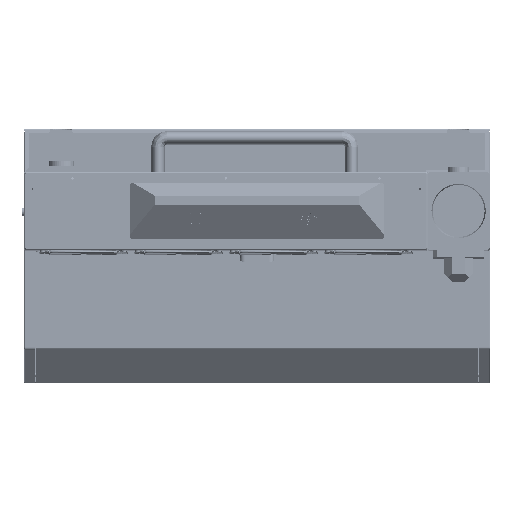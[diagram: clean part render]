
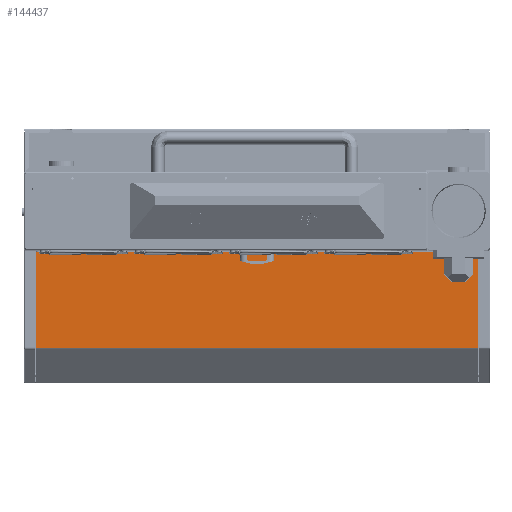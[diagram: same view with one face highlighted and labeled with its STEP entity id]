
A CAD part, top view. The second image highlights one B-rep face of the part: STEP entity #144437.
In plain terms, the highlighted planar face has unit normal (0, 0, 1) as drawn and (0, 1, 0) by its records, which use the part's own axes.
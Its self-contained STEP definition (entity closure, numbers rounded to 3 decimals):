
#36287 = VERTEX_POINT ( 'NONE', #92441 ) ;
#36305 = VERTEX_POINT ( 'NONE', #92437 ) ;
#36317 = VERTEX_POINT ( 'NONE', #92374 ) ;
#36339 = VERTEX_POINT ( 'NONE', #92486 ) ;
#91928 = VECTOR ( 'NONE', #97245, 1000. ) ;
#91996 = VECTOR ( 'NONE', #97355, 1000. ) ;
#92374 = CARTESIAN_POINT ( 'NONE',  ( 44.611, 210.164, 570. ) ) ;
#92437 = CARTESIAN_POINT ( 'NONE',  ( 44.611, 210.164, 1. ) ) ;
#92441 = CARTESIAN_POINT ( 'NONE',  ( 168.548, 210.164, 1. ) ) ;
#92486 = CARTESIAN_POINT ( 'NONE',  ( 168.548, 210.164, 570. ) ) ;
#92594 = VECTOR ( 'NONE', #97459, 1000. ) ;
#92916 = VECTOR ( 'NONE', #97599, 1000. ) ;
#93520 = AXIS2_PLACEMENT_3D ( 'NONE', #98531, #98573, #98576 ) ;
#97245 = DIRECTION ( 'NONE',  ( 1., 0., 0. ) ) ;
#97292 = LINE ( 'NONE', #97298, #91928 ) ;
#97298 = CARTESIAN_POINT ( 'NONE',  ( 168.548, 210.164, 570. ) ) ;
#97346 = LINE ( 'NONE', #97391, #91996 ) ;
#97355 = DIRECTION ( 'NONE',  ( 0., 0., -1. ) ) ;
#97391 = CARTESIAN_POINT ( 'NONE',  ( 168.548, 210.164, 571. ) ) ;
#97459 = DIRECTION ( 'NONE',  ( 0., 0., -1. ) ) ;
#97494 = LINE ( 'NONE', #97502, #92594 ) ;
#97502 = CARTESIAN_POINT ( 'NONE',  ( 44.611, 210.164, 571. ) ) ;
#97599 = DIRECTION ( 'NONE',  ( -1., 0., 0. ) ) ;
#97613 = CARTESIAN_POINT ( 'NONE',  ( 0., 210.164, 1. ) ) ;
#97645 = LINE ( 'NONE', #97613, #92916 ) ;
#98531 = CARTESIAN_POINT ( 'NONE',  ( 0., 210.164, 571. ) ) ;
#98564 = PLANE ( 'NONE',  #93520 ) ;
#98571 = FACE_OUTER_BOUND ( 'NONE', #193877, .T. ) ;
#98573 = DIRECTION ( 'NONE',  ( 0., -1., 0. ) ) ;
#98576 = DIRECTION ( 'NONE',  ( 0., 0., -1. ) ) ;
#139809 = EDGE_CURVE ( 'NONE', #36317, #36339, #97292, .T. ) ;
#139819 = EDGE_CURVE ( 'NONE', #36339, #36287, #97346, .T. ) ;
#139955 = EDGE_CURVE ( 'NONE', #36317, #36305, #97494, .T. ) ;
#139984 = EDGE_CURVE ( 'NONE', #36287, #36305, #97645, .T. ) ;
#144437 = ADVANCED_FACE ( 'NONE', ( #98571 ), #98564, .F. ) ;
#153811 = ORIENTED_EDGE ( 'NONE', *, *, #139955, .F. ) ;
#153861 = ORIENTED_EDGE ( 'NONE', *, *, #139819, .T. ) ;
#153916 = ORIENTED_EDGE ( 'NONE', *, *, #139984, .T. ) ;
#154149 = ORIENTED_EDGE ( 'NONE', *, *, #139809, .T. ) ;
#193877 = EDGE_LOOP ( 'NONE', ( #153811, #154149, #153861, #153916 ) ) ;
